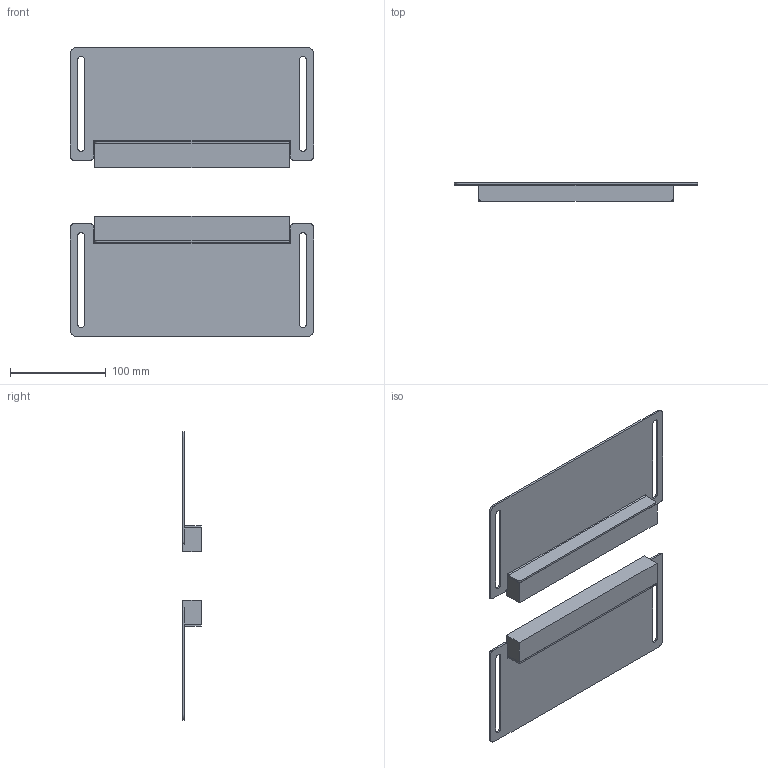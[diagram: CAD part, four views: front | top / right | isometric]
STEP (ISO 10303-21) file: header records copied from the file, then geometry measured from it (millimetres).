
FILE_DESCRIPTION((''),'2;1');
FILE_NAME('MODEL-263_ASM','2017-06-19T',('JoelB'),('SAGINAW CONTROL & ENGINEERING'),'PRO/ENGINEER BY PARAMETRIC TECHNOLOGY CORPORATION, 2012070','PRO/ENGINEER BY PARAMETRIC TECHNOLOGY CORPORATION, 2012070','');
FILE_SCHEMA(('AUTOMOTIVE_DESIGN { 1 0 10303 214 1 1 1 1 }'));
Length unit declared in the file: inch
Products named in the file (3): MODEL-263-GLND-PLT; 109911; MODEL-263_ASM
Assembly tree (4 placements, depth 2):
  MODEL-263_ASM
    MODEL-263-GLND-PLT  x2
    109911  x2
Bounding box: 254 x 19.05 x 301.62 mm (x, y, z)
Volume: 303859.8 mm3; surface area: 155284.8 mm2
Topology: 4 solids, 4 shells, 80 faces, 208 edges, 136 vertices
Faces by surface type: plane 48, cylinder 32
Entity records: 1764 total; most frequent: DIRECTION 230, CARTESIAN_POINT 228, ORIENTED_EDGE 208, PRESENTATION_STYLE_ASSIGNMENT 106, STYLED_ITEM 106, CURVE_STYLE 104, EDGE_CURVE 104, AXIS2_PLACEMENT_3D 79
